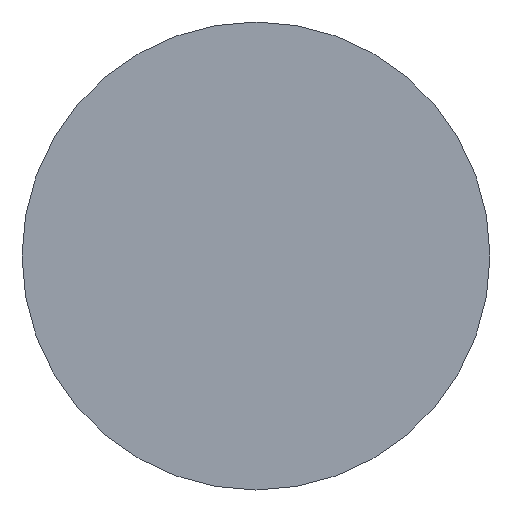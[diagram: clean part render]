
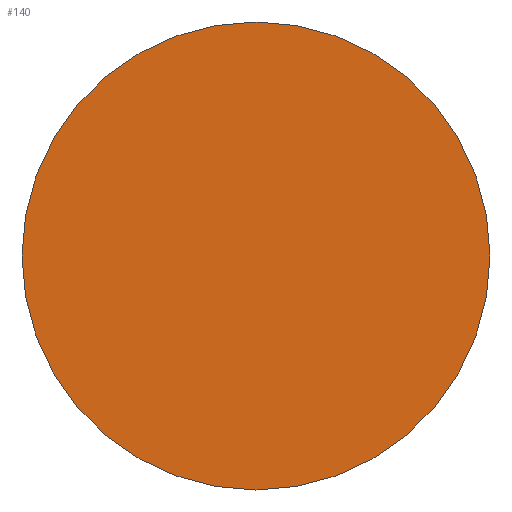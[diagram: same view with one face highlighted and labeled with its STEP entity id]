
A CAD part, left-side view. The second image highlights one B-rep face of the part: STEP entity #140.
In plain terms, the highlighted planar face has unit normal (-1, 0, 0).
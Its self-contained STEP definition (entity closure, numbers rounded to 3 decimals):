
#11 = EDGE_CURVE ( 'NONE', #78, #93, #127, .T. ) ;
#16 = AXIS2_PLACEMENT_3D ( 'NONE', #79, #75, #73 ) ;
#18 = AXIS2_PLACEMENT_3D ( 'NONE', #87, #84, #83 ) ;
#19 = EDGE_CURVE ( 'NONE', #93, #78, #104, .T. ) ;
#20 = AXIS2_PLACEMENT_3D ( 'NONE', #52, #48, #47 ) ;
#47 = DIRECTION ( 'NONE',  ( 0., 0., 1. ) ) ;
#48 = DIRECTION ( 'NONE',  ( -1., 0., 0. ) ) ;
#51 = PLANE ( 'NONE',  #20 ) ;
#52 = CARTESIAN_POINT ( 'NONE',  ( -454.5, 0., 0. ) ) ;
#68 = CARTESIAN_POINT ( 'NONE',  ( -454.5, 0., -5.5 ) ) ;
#73 = DIRECTION ( 'NONE',  ( 0., 0., 1. ) ) ;
#75 = DIRECTION ( 'NONE',  ( -1., 0., 0. ) ) ;
#76 = CARTESIAN_POINT ( 'NONE',  ( -454.5, 0., 5.5 ) ) ;
#78 = VERTEX_POINT ( 'NONE', #76 ) ;
#79 = CARTESIAN_POINT ( 'NONE',  ( -454.5, 0., 0. ) ) ;
#83 = DIRECTION ( 'NONE',  ( 0., 0., 1. ) ) ;
#84 = DIRECTION ( 'NONE',  ( -1., 0., 0. ) ) ;
#87 = CARTESIAN_POINT ( 'NONE',  ( -454.5, 0., 0. ) ) ;
#93 = VERTEX_POINT ( 'NONE', #68 ) ;
#94 = EDGE_LOOP ( 'NONE', ( #117, #113 ) ) ;
#102 = FACE_OUTER_BOUND ( 'NONE', #94, .T. ) ;
#104 = CIRCLE ( 'NONE', #16, 5.5 ) ;
#113 = ORIENTED_EDGE ( 'NONE', *, *, #19, .T. ) ;
#117 = ORIENTED_EDGE ( 'NONE', *, *, #11, .T. ) ;
#127 = CIRCLE ( 'NONE', #18, 5.5 ) ;
#140 = ADVANCED_FACE ( 'NONE', ( #102 ), #51, .T. ) ;
